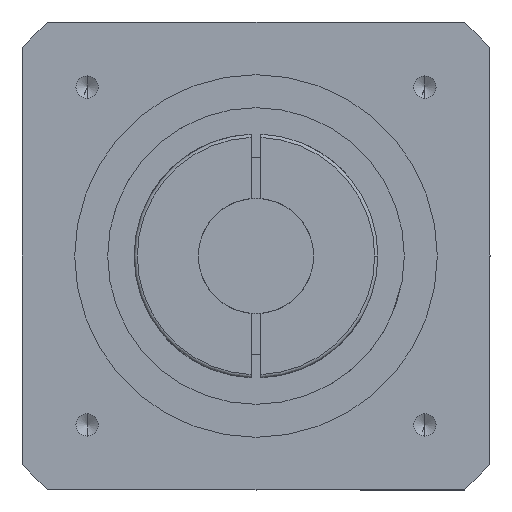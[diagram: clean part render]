
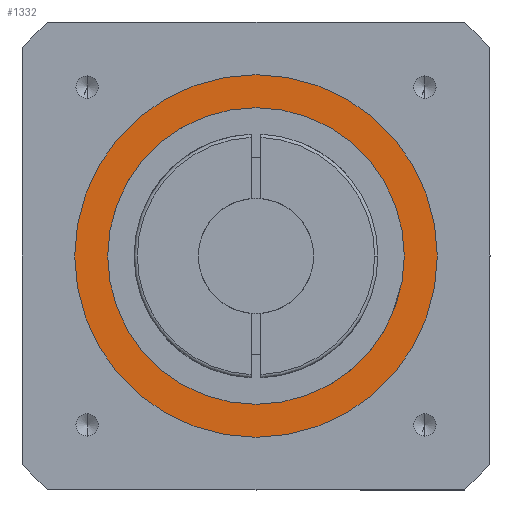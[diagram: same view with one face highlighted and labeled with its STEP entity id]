
A CAD part, front view. The second image highlights one B-rep face of the part: STEP entity #1332.
In plain terms, the highlighted planar face has unit normal (0, -1, 0).
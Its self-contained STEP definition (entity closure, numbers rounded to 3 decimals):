
#98 = AXIS2_PLACEMENT_3D ( 'NONE', #4613, #4618, #4619 ) ;
#129 = AXIS2_PLACEMENT_3D ( 'NONE', #1484, #1485, #1486 ) ;
#132 = AXIS2_PLACEMENT_3D ( 'NONE', #1493, #1494, #1495 ) ;
#303 = EDGE_CURVE ( 'NONE', #4255, #4281, #2783, .T. ) ;
#353 = EDGE_CURVE ( 'NONE', #4151, #4078, #2727, .T. ) ;
#425 = CIRCLE ( 'NONE', #132, 55. ) ;
#428 = CIRCLE ( 'NONE', #129, 45. ) ;
#463 = FACE_OUTER_BOUND ( 'NONE', #2310, .T. ) ;
#1071 = AXIS2_PLACEMENT_3D ( 'NONE', #3117, #3118, #3119 ) ;
#1088 = AXIS2_PLACEMENT_3D ( 'NONE', #3952, #3884, #4021 ) ;
#1332 = ADVANCED_FACE ( 'NONE', ( #3449, #463 ), #4611, .T. ) ;
#1349 = CARTESIAN_POINT ( 'NONE',  ( 0., -71.5, 55. ) ) ;
#1422 = CARTESIAN_POINT ( 'NONE',  ( 0., -71.5, 45. ) ) ;
#1451 = CARTESIAN_POINT ( 'NONE',  ( 0., -71.5, -45. ) ) ;
#1484 = CARTESIAN_POINT ( 'NONE',  ( 0., -71.5, 0. ) ) ;
#1485 = DIRECTION ( 'NONE',  ( 0., -1., 0. ) ) ;
#1486 = DIRECTION ( 'NONE',  ( 0., 0., -1. ) ) ;
#1493 = CARTESIAN_POINT ( 'NONE',  ( 0., -71.5, 0. ) ) ;
#1494 = DIRECTION ( 'NONE',  ( 0., -1., 0. ) ) ;
#1495 = DIRECTION ( 'NONE',  ( 0., 0., -1. ) ) ;
#1994 = EDGE_LOOP ( 'NONE', ( #2426, #2427 ) ) ;
#2310 = EDGE_LOOP ( 'NONE', ( #2428, #2429 ) ) ;
#2426 = ORIENTED_EDGE ( 'NONE', *, *, #4921, .F. ) ;
#2427 = ORIENTED_EDGE ( 'NONE', *, *, #303, .F. ) ;
#2428 = ORIENTED_EDGE ( 'NONE', *, *, #4924, .T. ) ;
#2429 = ORIENTED_EDGE ( 'NONE', *, *, #353, .T. ) ;
#2727 = CIRCLE ( 'NONE', #1088, 55. ) ;
#2783 = CIRCLE ( 'NONE', #1071, 45. ) ;
#3117 = CARTESIAN_POINT ( 'NONE',  ( 0., -71.5, 0. ) ) ;
#3118 = DIRECTION ( 'NONE',  ( 0., -1., 0. ) ) ;
#3119 = DIRECTION ( 'NONE',  ( 0., 0., -1. ) ) ;
#3449 = FACE_BOUND ( 'NONE', #1994, .T. ) ;
#3884 = DIRECTION ( 'NONE',  ( 0., -1., 0. ) ) ;
#3952 = CARTESIAN_POINT ( 'NONE',  ( 0., -71.5, 0. ) ) ;
#4021 = DIRECTION ( 'NONE',  ( 0., 0., -1. ) ) ;
#4078 = VERTEX_POINT ( 'NONE', #4797 ) ;
#4151 = VERTEX_POINT ( 'NONE', #1349 ) ;
#4255 = VERTEX_POINT ( 'NONE', #1422 ) ;
#4281 = VERTEX_POINT ( 'NONE', #1451 ) ;
#4611 = PLANE ( 'NONE',  #98 ) ;
#4613 = CARTESIAN_POINT ( 'NONE',  ( 0., -71.5, 0. ) ) ;
#4618 = DIRECTION ( 'NONE',  ( 0., -1., 0. ) ) ;
#4619 = DIRECTION ( 'NONE',  ( 0., 0., -1. ) ) ;
#4797 = CARTESIAN_POINT ( 'NONE',  ( 0., -71.5, -55. ) ) ;
#4921 = EDGE_CURVE ( 'NONE', #4281, #4255, #428, .T. ) ;
#4924 = EDGE_CURVE ( 'NONE', #4078, #4151, #425, .T. ) ;
